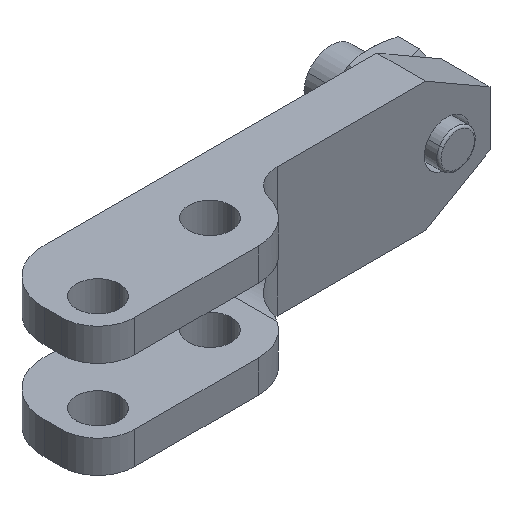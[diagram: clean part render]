
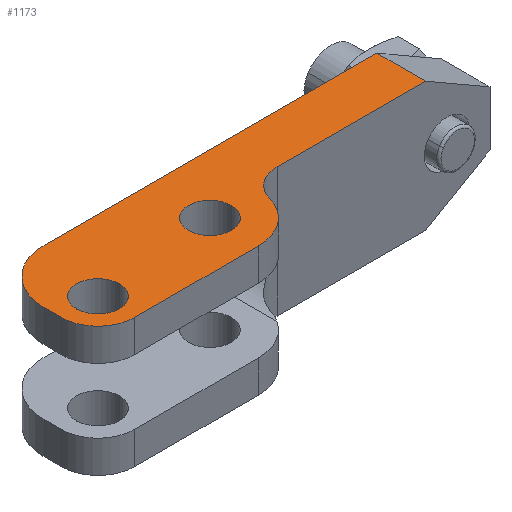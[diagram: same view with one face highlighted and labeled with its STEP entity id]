
A CAD part, isometric view. The second image highlights one B-rep face of the part: STEP entity #1173.
In plain terms, the highlighted planar face has unit normal (0, 0, 1) as drawn and (0, 0, -1) by its records, which use the part's own axes.
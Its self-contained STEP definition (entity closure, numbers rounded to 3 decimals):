
#1 = CIRCLE ( 'NONE', #1144, 3.4 ) ;
#31 = LINE ( 'NONE', #1051, #873 ) ;
#60 = DIRECTION ( 'NONE',  ( 0., 0., 1. ) ) ;
#63 = EDGE_CURVE ( 'NONE', #1518, #126, #1344, .T. ) ;
#93 = LINE ( 'NONE', #993, #1089 ) ;
#126 = VERTEX_POINT ( 'NONE', #198 ) ;
#142 = CIRCLE ( 'NONE', #857, 4.5 ) ;
#198 = CARTESIAN_POINT ( 'NONE',  ( 14.9, 0.5, 0. ) ) ;
#214 = EDGE_CURVE ( 'NONE', #2128, #1732, #142, .T. ) ;
#233 = CARTESIAN_POINT ( 'NONE',  ( 11.5, -1.1, 0. ) ) ;
#237 = EDGE_CURVE ( 'NONE', #1605, #1878, #93, .T. ) ;
#250 = DIRECTION ( 'NONE',  ( 1., 0., 0. ) ) ;
#269 = EDGE_CURVE ( 'NONE', #1732, #1010, #2613, .T. ) ;
#272 = DIRECTION ( 'NONE',  ( 1., 0., 0. ) ) ;
#275 = AXIS2_PLACEMENT_3D ( 'NONE', #1848, #2650, #272 ) ;
#283 = CARTESIAN_POINT ( 'NONE',  ( 13.5, -1.1, 0. ) ) ;
#284 = CIRCLE ( 'NONE', #1021, 2. ) ;
#389 = CARTESIAN_POINT ( 'NONE',  ( 11.5, -4.5, 0. ) ) ;
#496 = DIRECTION ( 'NONE',  ( 0., 0., 1. ) ) ;
#510 = AXIS2_PLACEMENT_3D ( 'NONE', #1341, #1832, #1941 ) ;
#525 = AXIS2_PLACEMENT_3D ( 'NONE', #1350, #2123, #598 ) ;
#536 = EDGE_LOOP ( 'NONE', ( #893, #769, #2354, #2535, #2343, #1346, #2565, #1281, #2158 ) ) ;
#566 = CARTESIAN_POINT ( 'NONE',  ( 0., 0., 0. ) ) ;
#571 = DIRECTION ( 'NONE',  ( 1., 0., 0. ) ) ;
#598 = DIRECTION ( 'NONE',  ( 1., 0., 0. ) ) ;
#629 = DIRECTION ( 'NONE',  ( 1., 0., 0. ) ) ;
#650 = CARTESIAN_POINT ( 'NONE',  ( 9.9, 5.5, 0. ) ) ;
#665 = CARTESIAN_POINT ( 'NONE',  ( -21., 5.5, 0. ) ) ;
#687 = ORIENTED_EDGE ( 'NONE', *, *, #979, .T. ) ;
#707 = CARTESIAN_POINT ( 'NONE',  ( 0., 5.5, 0. ) ) ;
#721 = CARTESIAN_POINT ( 'NONE',  ( 11.5, -1.1, 0. ) ) ;
#723 = EDGE_LOOP ( 'NONE', ( #2239, #790 ) ) ;
#758 = DIRECTION ( 'NONE',  ( 0., 0., 1. ) ) ;
#769 = ORIENTED_EDGE ( 'NONE', *, *, #63, .T. ) ;
#787 = VERTEX_POINT ( 'NONE', #1962 ) ;
#790 = ORIENTED_EDGE ( 'NONE', *, *, #1907, .T. ) ;
#792 = CARTESIAN_POINT ( 'NONE',  ( -4.337, -1.2, 0. ) ) ;
#815 = DIRECTION ( 'NONE',  ( 0., 0., 1. ) ) ;
#857 = AXIS2_PLACEMENT_3D ( 'NONE', #1923, #1812, #250 ) ;
#873 = VECTOR ( 'NONE', #2494, 1000. ) ;
#893 = ORIENTED_EDGE ( 'NONE', *, *, #1473, .F. ) ;
#956 = CARTESIAN_POINT ( 'NONE',  ( 11.5, -1.1, 0. ) ) ;
#979 = EDGE_CURVE ( 'NONE', #1297, #2045, #1786, .T. ) ;
#984 = VERTEX_POINT ( 'NONE', #283 ) ;
#993 = CARTESIAN_POINT ( 'NONE',  ( 0., 1., 0. ) ) ;
#1009 = CARTESIAN_POINT ( 'NONE',  ( -21., 1., 0. ) ) ;
#1010 = VERTEX_POINT ( 'NONE', #389 ) ;
#1021 = AXIS2_PLACEMENT_3D ( 'NONE', #233, #1847, #1880 ) ;
#1026 = DIRECTION ( 'NONE',  ( 0., 1., 0. ) ) ;
#1051 = CARTESIAN_POINT ( 'NONE',  ( 14.9, 0., 0. ) ) ;
#1062 = DIRECTION ( 'NONE',  ( 1., 0., 0. ) ) ;
#1089 = VECTOR ( 'NONE', #1840, 1000. ) ;
#1144 = AXIS2_PLACEMENT_3D ( 'NONE', #721, #496, #1062 ) ;
#1173 = ADVANCED_FACE ( 'NONE', ( #1586, #2557, #1994 ), #2160, .F. ) ;
#1218 = CIRCLE ( 'NONE', #2242, 2. ) ;
#1235 = CARTESIAN_POINT ( 'NONE',  ( 0., -4.5, 0. ) ) ;
#1251 = EDGE_LOOP ( 'NONE', ( #687, #2439 ) ) ;
#1281 = ORIENTED_EDGE ( 'NONE', *, *, #237, .F. ) ;
#1297 = VERTEX_POINT ( 'NONE', #1517 ) ;
#1317 = VERTEX_POINT ( 'NONE', #2325 ) ;
#1341 = CARTESIAN_POINT ( 'NONE',  ( 0., 0., 0. ) ) ;
#1344 = CIRCLE ( 'NONE', #275, 5. ) ;
#1346 = ORIENTED_EDGE ( 'NONE', *, *, #214, .F. ) ;
#1350 = CARTESIAN_POINT ( 'NONE',  ( -7.228, -2., 0. ) ) ;
#1364 = DIRECTION ( 'NONE',  ( 1., 0., 0. ) ) ;
#1392 = EDGE_CURVE ( 'NONE', #2128, #1878, #1620, .T. ) ;
#1406 = CARTESIAN_POINT ( 'NONE',  ( -7.228, 1., 0. ) ) ;
#1411 = EDGE_CURVE ( 'NONE', #1605, #2279, #1550, .T. ) ;
#1473 = EDGE_CURVE ( 'NONE', #1518, #2279, #1484, .T. ) ;
#1484 = LINE ( 'NONE', #707, #1854 ) ;
#1504 = VECTOR ( 'NONE', #1364, 1000. ) ;
#1517 = CARTESIAN_POINT ( 'NONE',  ( -2., 0., 0. ) ) ;
#1518 = VERTEX_POINT ( 'NONE', #650 ) ;
#1526 = EDGE_CURVE ( 'NONE', #787, #984, #1218, .T. ) ;
#1550 = LINE ( 'NONE', #2062, #2027 ) ;
#1586 = FACE_OUTER_BOUND ( 'NONE', #536, .T. ) ;
#1605 = VERTEX_POINT ( 'NONE', #1009 ) ;
#1615 = CIRCLE ( 'NONE', #1864, 2. ) ;
#1620 = CIRCLE ( 'NONE', #525, 3. ) ;
#1732 = VERTEX_POINT ( 'NONE', #1235 ) ;
#1734 = EDGE_CURVE ( 'NONE', #1010, #1317, #1, .T. ) ;
#1786 = CIRCLE ( 'NONE', #2037, 2. ) ;
#1812 = DIRECTION ( 'NONE',  ( 0., 0., 1. ) ) ;
#1832 = DIRECTION ( 'NONE',  ( 0., 0., 1. ) ) ;
#1840 = DIRECTION ( 'NONE',  ( 1., 0., 0. ) ) ;
#1847 = DIRECTION ( 'NONE',  ( 0., 0., 1. ) ) ;
#1848 = CARTESIAN_POINT ( 'NONE',  ( 9.9, 0.5, 0. ) ) ;
#1854 = VECTOR ( 'NONE', #2248, 1000. ) ;
#1864 = AXIS2_PLACEMENT_3D ( 'NONE', #2041, #815, #2246 ) ;
#1878 = VERTEX_POINT ( 'NONE', #1406 ) ;
#1880 = DIRECTION ( 'NONE',  ( 1., 0., 0. ) ) ;
#1907 = EDGE_CURVE ( 'NONE', #984, #787, #284, .T. ) ;
#1923 = CARTESIAN_POINT ( 'NONE',  ( 0., 0., 0. ) ) ;
#1941 = DIRECTION ( 'NONE',  ( 1., 0., 0. ) ) ;
#1962 = CARTESIAN_POINT ( 'NONE',  ( 9.5, -1.1, 0. ) ) ;
#1994 = FACE_BOUND ( 'NONE', #723, .T. ) ;
#2027 = VECTOR ( 'NONE', #1026, 1000. ) ;
#2037 = AXIS2_PLACEMENT_3D ( 'NONE', #566, #758, #571 ) ;
#2041 = CARTESIAN_POINT ( 'NONE',  ( 0., 0., 0. ) ) ;
#2045 = VERTEX_POINT ( 'NONE', #2203 ) ;
#2062 = CARTESIAN_POINT ( 'NONE',  ( -21., 0., 0. ) ) ;
#2123 = DIRECTION ( 'NONE',  ( 0., 0., 1. ) ) ;
#2128 = VERTEX_POINT ( 'NONE', #792 ) ;
#2158 = ORIENTED_EDGE ( 'NONE', *, *, #1411, .T. ) ;
#2160 = PLANE ( 'NONE',  #510 ) ;
#2184 = EDGE_CURVE ( 'NONE', #2045, #1297, #1615, .T. ) ;
#2203 = CARTESIAN_POINT ( 'NONE',  ( 2., 0., 0. ) ) ;
#2239 = ORIENTED_EDGE ( 'NONE', *, *, #1526, .T. ) ;
#2242 = AXIS2_PLACEMENT_3D ( 'NONE', #956, #60, #629 ) ;
#2246 = DIRECTION ( 'NONE',  ( 1., 0., 0. ) ) ;
#2248 = DIRECTION ( 'NONE',  ( -1., 0., 0. ) ) ;
#2255 = EDGE_CURVE ( 'NONE', #1317, #126, #31, .T. ) ;
#2279 = VERTEX_POINT ( 'NONE', #665 ) ;
#2325 = CARTESIAN_POINT ( 'NONE',  ( 14.9, -1.1, 0. ) ) ;
#2343 = ORIENTED_EDGE ( 'NONE', *, *, #269, .F. ) ;
#2354 = ORIENTED_EDGE ( 'NONE', *, *, #2255, .F. ) ;
#2439 = ORIENTED_EDGE ( 'NONE', *, *, #2184, .T. ) ;
#2494 = DIRECTION ( 'NONE',  ( 0., 1., 0. ) ) ;
#2535 = ORIENTED_EDGE ( 'NONE', *, *, #1734, .F. ) ;
#2557 = FACE_BOUND ( 'NONE', #1251, .T. ) ;
#2565 = ORIENTED_EDGE ( 'NONE', *, *, #1392, .T. ) ;
#2574 = CARTESIAN_POINT ( 'NONE',  ( 0., -4.5, 0. ) ) ;
#2613 = LINE ( 'NONE', #2574, #1504 ) ;
#2650 = DIRECTION ( 'NONE',  ( 0., 0., -1. ) ) ;
